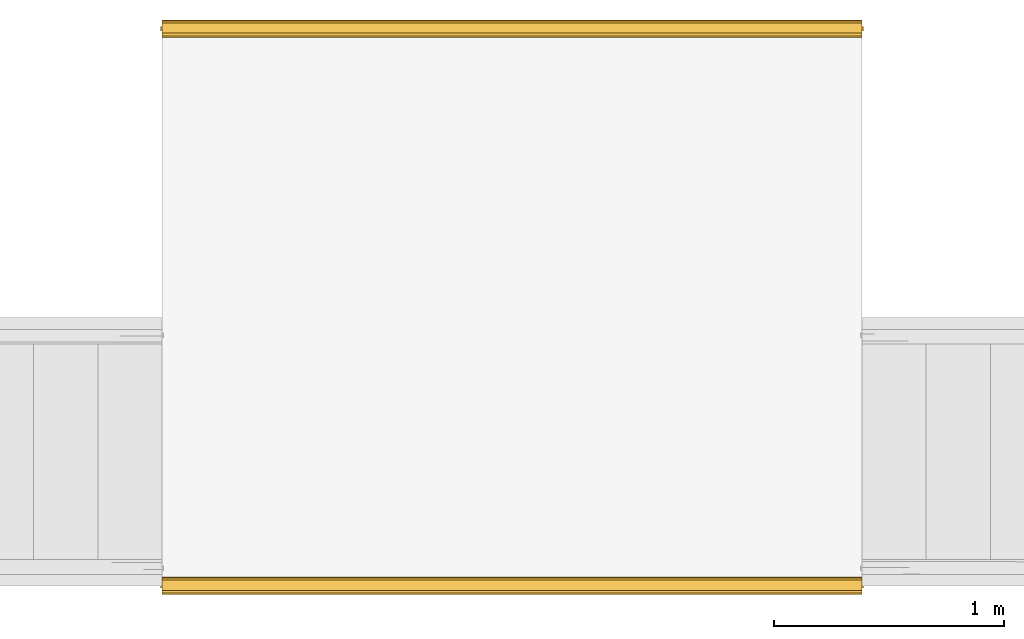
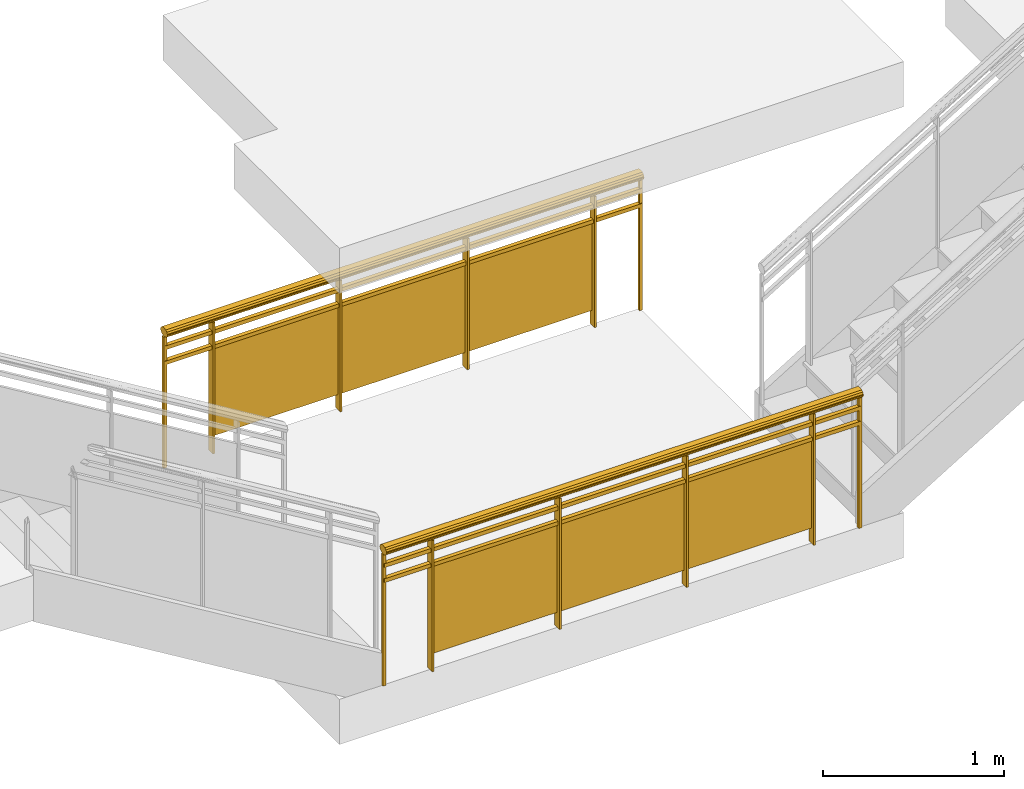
# One storey, part 2 of 4: 2 railings.
"""IFC2X3 building model written with IfcOpenShell, lengths in feet."""

from ifc_helpers import new_model, entity, si_unit, converted_unit, derived_unit, direction, frame, frame_2d, origin, origin_2d_with_axis, place, context, subcontext, project, spatial, polyline, rectangle, outline, extrude, material, material_list, element, save


model = new_model("IFC2X3")

# Units and contexts
model_context = context("Model", 3, precision=0.0001, world=origin(), true_north=direction((6.12303176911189e-17, 1.0)))
body_context = subcontext(model_context, "Body", "Model", "MODEL_VIEW")
ifc_project = project(units=[converted_unit("LENGTHUNIT", "FOOT", entity("IfcRatioMeasure", 0.3048), si_unit("LENGTHUNIT", "METRE"), dimensions=[1, 0, 0, 0, 0, 0, 0]), converted_unit("AREAUNIT", "SQUARE FOOT", entity("IfcRatioMeasure", 0.09290304), si_unit("AREAUNIT", "SQUARE_METRE"), dimensions=[2, 0, 0, 0, 0, 0, 0]), converted_unit("VOLUMEUNIT", "CUBIC FOOT", entity("IfcRatioMeasure", 0.028316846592), si_unit("VOLUMEUNIT", "CUBIC_METRE"), dimensions=[3, 0, 0, 0, 0, 0, 0]), converted_unit("PLANEANGLEUNIT", "DEGREE", entity("IfcRatioMeasure", 0.0174532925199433), si_unit("PLANEANGLEUNIT", "RADIAN"), dimensions=[0, 0, 0, 0, 0, 0, 0]), si_unit("MASSUNIT", "GRAM", prefix="KILO"), derived_unit("MASSDENSITYUNIT", [(si_unit("MASSUNIT", "GRAM", prefix="KILO"), 1), (si_unit("LENGTHUNIT", "METRE"), -3)]), si_unit("TIMEUNIT", "SECOND"), si_unit("FREQUENCYUNIT", "HERTZ"), si_unit("THERMODYNAMICTEMPERATUREUNIT", "DEGREE_CELSIUS"), derived_unit("THERMALTRANSMITTANCEUNIT", [(si_unit("MASSUNIT", "GRAM", prefix="KILO"), 1), (si_unit("THERMODYNAMICTEMPERATUREUNIT", "KELVIN"), -1), (si_unit("TIMEUNIT", "SECOND"), -3)]), derived_unit("VOLUMETRICFLOWRATEUNIT", [(si_unit("LENGTHUNIT", "METRE"), 3), (si_unit("TIMEUNIT", "SECOND"), -1)]), si_unit("ELECTRICCURRENTUNIT", "AMPERE"), si_unit("ELECTRICVOLTAGEUNIT", "VOLT"), si_unit("POWERUNIT", "WATT"), si_unit("FORCEUNIT", "NEWTON"), si_unit("ILLUMINANCEUNIT", "LUX"), si_unit("LUMINOUSFLUXUNIT", "LUMEN"), si_unit("LUMINOUSINTENSITYUNIT", "CANDELA"), derived_unit("USERDEFINED", [(si_unit("MASSUNIT", "GRAM", prefix="KILO"), -1), (si_unit("LENGTHUNIT", "METRE"), -2), (si_unit("TIMEUNIT", "SECOND"), 3), (si_unit("LUMINOUSFLUXUNIT", "LUMEN"), 1)]), derived_unit("LINEARVELOCITYUNIT", [(si_unit("LENGTHUNIT", "METRE"), 1), (si_unit("TIMEUNIT", "SECOND"), -1)]), si_unit("PRESSUREUNIT", "PASCAL"), derived_unit("USERDEFINED", [(si_unit("LENGTHUNIT", "METRE"), -2), (si_unit("MASSUNIT", "GRAM", prefix="KILO"), 1), (si_unit("TIMEUNIT", "SECOND"), -2)])], contexts=[model_context])

# Site, building, storey
site_placement = place(None, origin())
site = spatial("IfcSite", under=ifc_project, at=site_placement, Name="Default", CompositionType="ELEMENT")
building_placement = place(site_placement, origin())
building = spatial("IfcBuilding", under=site, at=building_placement, CompositionType="ELEMENT")
storey_placement = place(building_placement, frame((0.0, 0.0, 35.0)))
storey = spatial("IfcBuildingStorey", under=building, at=storey_placement, Name="L 6", CompositionType="ELEMENT", Elevation=34.9999999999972)

# Railings
ifc_material_1 = material(Name="Glass")
ifc_material_2 = material(Name="alum - color")
ifc_material_list_1 = material_list([ifc_material_1, ifc_material_2])
railing_1_placement = place(storey_placement, origin())
element("IfcRailing", 1, at=railing_1_placement, inside=storey, material=ifc_material_list_1, Name="Railing:Glass Panel - Bottom Fill", ObjectType="Railing:Glass Panel - Bottom Fill", PredefinedType="NOTDEFINED", context=body_context, shape_type="SweptSolid", body=[
    extrude(rectangle(XDim=0.0416666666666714, YDim=0.166666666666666, at=frame_2d((0.0, 8.88178419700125e-16), x_axis=(1.0, 0.0))), frame((-29.991829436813, -15.3369745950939, 0.0)), (0.0, 0.0, 1.0), 2.90577041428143),
    extrude(rectangle(XDim=0.0208333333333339, YDim=2.66666666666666, at=frame_2d((-8.88178419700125e-16, -1.77635683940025e-15), x_axis=(1.0, 0.0))), frame((-31.3251627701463, -15.3259504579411, 0.333333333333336), z_axis=(0.0, 0.0, 1.0), x_axis=(0.0, -1.0, 0.0)), (0.0, 0.0, 1.0), 1.95833333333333),
    extrude(rectangle(XDim=0.0416666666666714, YDim=0.166666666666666, at=frame_2d((0.0, 8.88178419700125e-16), x_axis=(1.0, 0.0))), frame((-32.6584961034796, -15.3369745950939, 0.0)), (0.0, 0.0, 1.0), 2.90577041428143),
    extrude(rectangle(XDim=0.0208333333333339, YDim=2.66666666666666, at=frame_2d((-8.88178419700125e-16, 0.0), x_axis=(1.0, 0.0))), frame((-33.991829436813, -15.3259504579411, 0.333333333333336), z_axis=(0.0, 0.0, 1.0), x_axis=(0.0, -1.0, 0.0)), (0.0, 0.0, 1.0), 1.95833333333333),
    extrude(rectangle(XDim=0.0416666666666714, YDim=0.166666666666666, at=frame_2d((0.0, 8.88178419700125e-16), x_axis=(1.0, 0.0))), frame((-35.3251627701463, -15.3369745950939, 0.0)), (0.0, 0.0, 1.0), 2.90577041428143),
    extrude(rectangle(XDim=0.0208333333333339, YDim=2.66666666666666, at=frame_2d((-8.88178419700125e-16, 0.0), x_axis=(1.0, 0.0))), frame((-36.6584961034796, -15.3259504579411, 0.333333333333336), z_axis=(0.0, 0.0, 1.0), x_axis=(0.0, -1.0, 0.0)), (0.0, 0.0, 1.0), 1.95833333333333),
    extrude(rectangle(XDim=0.0416666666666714, YDim=0.166666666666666, at=frame_2d((0.0, 8.88178419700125e-16), x_axis=(1.0, 0.0))), frame((-37.991829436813, -15.3369745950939, 0.0)), (0.0, 0.0, 1.0), 2.90577041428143),
    extrude(rectangle(XDim=0.0625, YDim=0.0625, at=origin_2d_with_axis()), frame((-29.0022461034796, -15.3369745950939, 0.0)), (0.0, 0.0, 1.0), 2.90577041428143),
    extrude(rectangle(XDim=0.0625, YDim=0.0625, at=origin_2d_with_axis()), frame((-38.9814127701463, -15.3369745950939, 0.0)), (0.0, 0.0, 1.0), 2.90577041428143),
    extrude(rectangle(XDim=10.0, YDim=0.0833333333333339, at=frame_2d((0.0, -8.88178419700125e-16), x_axis=(1.0, 0.0))), frame((-33.991829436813, -15.3369745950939, 2.625)), (0.0, 0.0, 1.0), 0.0833333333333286),
    extrude(rectangle(XDim=10.0, YDim=0.0833333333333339, at=frame_2d((0.0, -8.88178419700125e-16), x_axis=(1.0, 0.0))), frame((-33.991829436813, -15.3369745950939, 2.29166666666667)), (0.0, 0.0, 1.0), 0.0833333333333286),
    extrude(outline(polyline([(-0.0340837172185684, -0.120263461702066), (0.00554964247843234, -0.120263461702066), (0.0442234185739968, -0.0994688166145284), (0.0752505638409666, -0.0614751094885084), (0.0932662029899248, -0.0128517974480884), (0.0951552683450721, 0.0379937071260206), (0.0805911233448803, 0.0822697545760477), (0.0520920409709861, 0.112320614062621), (0.0340837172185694, 0.120263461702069), (-0.00554964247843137, 0.120263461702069), (-0.0442234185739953, 0.0994688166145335), (-0.0752505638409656, 0.0614751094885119), (-0.0932662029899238, 0.0128517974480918), (-0.0951552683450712, -0.0379937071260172), (-0.0805911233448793, -0.0822697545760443), (-0.0520920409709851, -0.112320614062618), (-0.0340837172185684, -0.120263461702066)])), frame((-38.991829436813, -15.3369745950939, 3.0), z_axis=(1.0, 0.0, 0.0), x_axis=(0.0, 0.272669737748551, -0.962107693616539)), (0.0, 0.0, 1.0), 10.0),
])
ifc_material_list_2 = material_list([ifc_material_1, ifc_material_2])
railing_2_placement = place(storey_placement, origin())
element("IfcRailing", 2, at=railing_2_placement, inside=storey, material=ifc_material_list_2, Name="Railing:Glass Panel - Bottom Fill", ObjectType="Railing:Glass Panel - Bottom Fill", PredefinedType="NOTDEFINED", context=body_context, shape_type="SweptSolid", body=[
    extrude(rectangle(XDim=0.0416666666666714, YDim=0.166666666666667, at=frame_2d((0.0, 4.44089209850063e-16), x_axis=(1.0, 0.0))), frame((-29.991829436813, -7.37673740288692, 0.0)), (0.0, 0.0, 1.0), 2.90577041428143),
    extrude(rectangle(XDim=0.020833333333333, YDim=2.66666666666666, at=frame_2d((-4.44089209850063e-16, -1.77635683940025e-15), x_axis=(1.0, 0.0))), frame((-31.3251627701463, -7.36571326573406, 0.333333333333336), z_axis=(0.0, 0.0, 1.0), x_axis=(0.0, -1.0, 0.0)), (0.0, 0.0, 1.0), 1.95833333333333),
    extrude(rectangle(XDim=0.0416666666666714, YDim=0.166666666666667, at=frame_2d((0.0, 4.44089209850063e-16), x_axis=(1.0, 0.0))), frame((-32.6584961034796, -7.37673740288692, 0.0)), (0.0, 0.0, 1.0), 2.90577041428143),
    extrude(rectangle(XDim=0.020833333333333, YDim=2.66666666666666, at=frame_2d((-4.44089209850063e-16, 0.0), x_axis=(1.0, 0.0))), frame((-33.991829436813, -7.36571326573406, 0.333333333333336), z_axis=(0.0, 0.0, 1.0), x_axis=(0.0, -1.0, 0.0)), (0.0, 0.0, 1.0), 1.95833333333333),
    extrude(rectangle(XDim=0.0416666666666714, YDim=0.166666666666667, at=frame_2d((0.0, 4.44089209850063e-16), x_axis=(1.0, 0.0))), frame((-35.3251627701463, -7.37673740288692, 0.0)), (0.0, 0.0, 1.0), 2.90577041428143),
    extrude(rectangle(XDim=0.020833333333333, YDim=2.66666666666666, at=frame_2d((-4.44089209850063e-16, 0.0), x_axis=(1.0, 0.0))), frame((-36.6584961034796, -7.36571326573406, 0.333333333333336), z_axis=(0.0, 0.0, 1.0), x_axis=(0.0, -1.0, 0.0)), (0.0, 0.0, 1.0), 1.95833333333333),
    extrude(rectangle(XDim=0.0416666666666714, YDim=0.166666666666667, at=frame_2d((0.0, 4.44089209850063e-16), x_axis=(1.0, 0.0))), frame((-37.991829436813, -7.37673740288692, 0.0)), (0.0, 0.0, 1.0), 2.90577041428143),
    extrude(rectangle(XDim=0.0625, YDim=0.0625, at=origin_2d_with_axis()), frame((-29.0022461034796, -7.37673740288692, 0.0)), (0.0, 0.0, 1.0), 2.90577041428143),
    extrude(rectangle(XDim=0.0625, YDim=0.0625, at=origin_2d_with_axis()), frame((-38.9814127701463, -7.37673740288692, 0.0)), (0.0, 0.0, 1.0), 2.90577041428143),
    extrude(rectangle(XDim=10.0, YDim=0.083333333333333, at=frame_2d((0.0, -4.44089209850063e-16), x_axis=(1.0, 0.0))), frame((-33.991829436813, -7.37673740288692, 2.625)), (0.0, 0.0, 1.0), 0.0833333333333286),
    extrude(rectangle(XDim=10.0, YDim=0.083333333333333, at=frame_2d((0.0, -4.44089209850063e-16), x_axis=(1.0, 0.0))), frame((-33.991829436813, -7.37673740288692, 2.29166666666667)), (0.0, 0.0, 1.0), 0.0833333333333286),
    extrude(outline(polyline([(-0.0340837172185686, -0.120263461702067), (0.00554964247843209, -0.120263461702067), (0.0442234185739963, -0.0994688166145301), (0.0752505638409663, -0.0614751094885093), (0.0932662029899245, -0.0128517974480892), (0.0951552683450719, 0.0379937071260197), (0.0805911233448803, 0.0822697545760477), (0.0520920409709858, 0.11232061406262), (0.0340837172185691, 0.120263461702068), (-0.00554964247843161, 0.120263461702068), (-0.0442234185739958, 0.0994688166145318), (-0.0752505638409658, 0.061475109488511), (-0.093266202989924, 0.0128517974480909), (-0.0951552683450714, -0.037993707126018), (-0.0805911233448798, -0.082269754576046), (-0.0520920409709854, -0.112320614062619), (-0.0340837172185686, -0.120263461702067)])), frame((-38.991829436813, -7.37673740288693, 3.0), z_axis=(1.0, 0.0, 0.0), x_axis=(0.0, 0.272669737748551, -0.962107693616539)), (0.0, 0.0, 1.0), 10.0),
])

save(model, "model.ifc")
